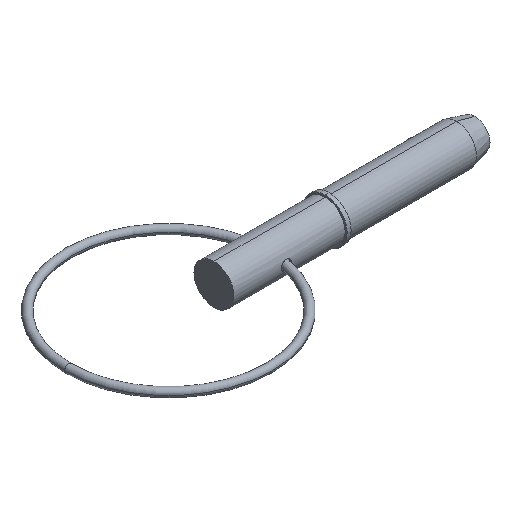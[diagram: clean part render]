
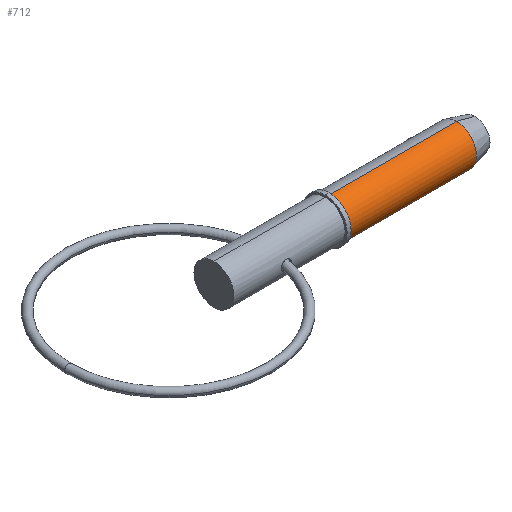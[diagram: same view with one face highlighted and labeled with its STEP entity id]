
A CAD part, isometric view. The second image highlights one B-rep face of the part: STEP entity #712.
In plain terms, the highlighted cylindrical face has radius 3.175 mm (diameter 6.35 mm), a partial arc.
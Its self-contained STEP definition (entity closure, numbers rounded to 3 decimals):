
#24 = CIRCLE ( 'NONE', #390, 3.175 ) ;
#104 = DIRECTION ( 'NONE',  ( 0., 0., -1. ) ) ;
#125 = ORIENTED_EDGE ( 'NONE', *, *, #539, .F. ) ;
#132 = CARTESIAN_POINT ( 'NONE',  ( 38.488, 0., -3.175 ) ) ;
#133 = ORIENTED_EDGE ( 'NONE', *, *, #944, .F. ) ;
#163 = CARTESIAN_POINT ( 'NONE',  ( 0., 0., -3.175 ) ) ;
#222 = VECTOR ( 'NONE', #570, 1000. ) ;
#253 = CARTESIAN_POINT ( 'NONE',  ( 38.488, 0., 3.175 ) ) ;
#255 = VERTEX_POINT ( 'NONE', #132 ) ;
#270 = EDGE_LOOP ( 'NONE', ( #133, #275, #347, #125 ) ) ;
#275 = ORIENTED_EDGE ( 'NONE', *, *, #615, .T. ) ;
#317 = LINE ( 'NONE', #163, #701 ) ;
#334 = CARTESIAN_POINT ( 'NONE',  ( 18.29, 0., 0. ) ) ;
#347 = ORIENTED_EDGE ( 'NONE', *, *, #430, .T. ) ;
#357 = VERTEX_POINT ( 'NONE', #253 ) ;
#360 = FACE_OUTER_BOUND ( 'NONE', #270, .T. ) ;
#390 = AXIS2_PLACEMENT_3D ( 'NONE', #334, #934, #569 ) ;
#416 = CARTESIAN_POINT ( 'NONE',  ( 18.29, 0., 3.175 ) ) ;
#430 = EDGE_CURVE ( 'NONE', #836, #255, #317, .T. ) ;
#451 = CYLINDRICAL_SURFACE ( 'NONE', #962, 3.175 ) ;
#470 = DIRECTION ( 'NONE',  ( 1., 0., 0. ) ) ;
#484 = CARTESIAN_POINT ( 'NONE',  ( 0., 0., 3.175 ) ) ;
#492 = DIRECTION ( 'NONE',  ( 1., 0., 0. ) ) ;
#501 = LINE ( 'NONE', #484, #222 ) ;
#539 = EDGE_CURVE ( 'NONE', #357, #255, #561, .T. ) ;
#561 = CIRCLE ( 'NONE', #798, 3.175 ) ;
#569 = DIRECTION ( 'NONE',  ( 0., 0., -1. ) ) ;
#570 = DIRECTION ( 'NONE',  ( 1., 0., 0. ) ) ;
#589 = DIRECTION ( 'NONE',  ( 1., 0., 0. ) ) ;
#615 = EDGE_CURVE ( 'NONE', #866, #836, #24, .T. ) ;
#676 = DIRECTION ( 'NONE',  ( 0., 0., -1. ) ) ;
#701 = VECTOR ( 'NONE', #470, 1000. ) ;
#709 = CARTESIAN_POINT ( 'NONE',  ( 38.488, 0., 0. ) ) ;
#712 = ADVANCED_FACE ( 'NONE', ( #360 ), #451, .T. ) ;
#742 = CARTESIAN_POINT ( 'NONE',  ( 0., 0., 0. ) ) ;
#798 = AXIS2_PLACEMENT_3D ( 'NONE', #709, #492, #104 ) ;
#836 = VERTEX_POINT ( 'NONE', #863 ) ;
#863 = CARTESIAN_POINT ( 'NONE',  ( 18.29, 0., -3.175 ) ) ;
#866 = VERTEX_POINT ( 'NONE', #416 ) ;
#934 = DIRECTION ( 'NONE',  ( 1., 0., 0. ) ) ;
#944 = EDGE_CURVE ( 'NONE', #866, #357, #501, .T. ) ;
#962 = AXIS2_PLACEMENT_3D ( 'NONE', #742, #589, #676 ) ;
